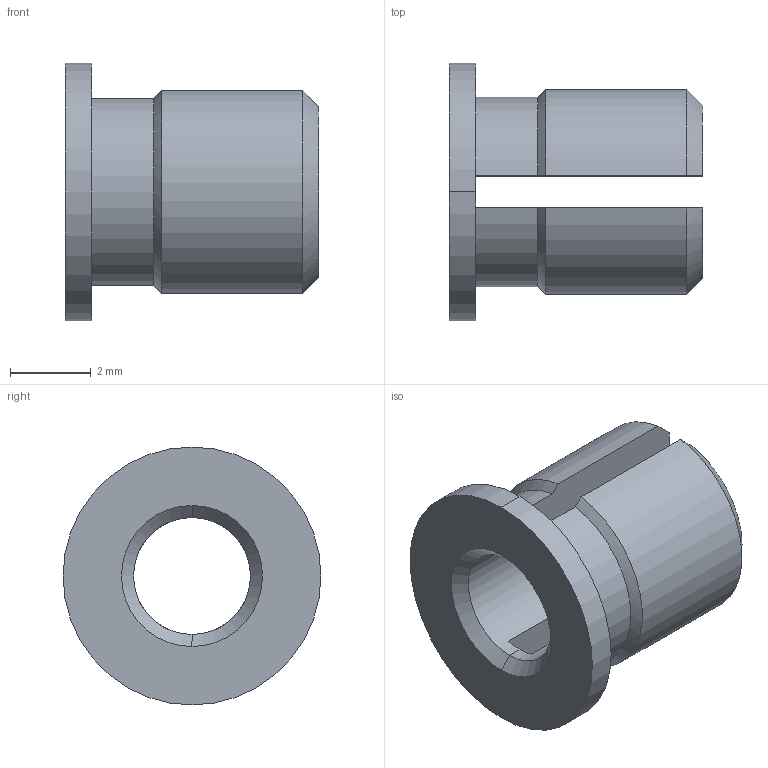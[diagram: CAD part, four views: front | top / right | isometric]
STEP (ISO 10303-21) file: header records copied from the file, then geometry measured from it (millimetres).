
FILE_DESCRIPTION (( 'STEP AP203' ), '1' );
FILE_NAME ('FSUK-EXPH-M03.5-S.STEP', '2021-04-15T14:56:49', ( '' ), ( '' ), 'SwSTEP 2.0', 'SolidWorks 2021', '' );
FILE_SCHEMA (( 'CONFIG_CONTROL_DESIGN' ));
Length unit declared in the file: millimetre
Products named in the file (1): FSUK-EXPH-M03.5-S
Bounding box: 6.3 x 6.4 x 6.4 mm (x, y, z)
Volume: 78.4 mm3; surface area: 213.1 mm2
Topology: 1 solids, 1 shells, 24 faces, 64 edges, 42 vertices
Faces by surface type: cylinder 8, cone 8, plane 8
Entity records: 851 total; most frequent: CARTESIAN_POINT 167, DIRECTION 128, ORIENTED_EDGE 128, EDGE_CURVE 64, AXIS2_PLACEMENT_3D 51, VERTEX_POINT 42, CIRCLE 26, LINE 26
